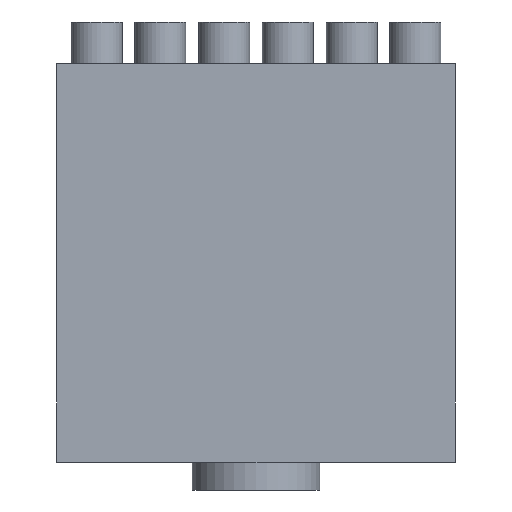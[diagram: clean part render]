
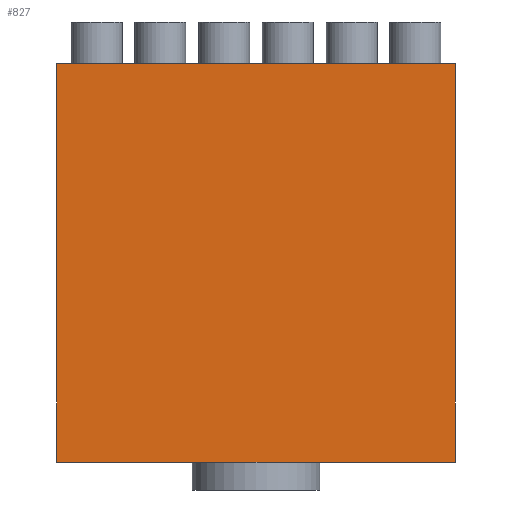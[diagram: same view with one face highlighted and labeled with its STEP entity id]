
A CAD part, front view. The second image highlights one B-rep face of the part: STEP entity #827.
In plain terms, the highlighted planar face has unit normal (0, -1, 0).
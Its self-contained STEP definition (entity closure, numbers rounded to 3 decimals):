
#16=LINE('',#1323,#52);
#39=LINE('',#1394,#75);
#49=LINE('',#1412,#85);
#50=LINE('',#1414,#86);
#52=VECTOR('',#1103,10.);
#75=VECTOR('',#1172,10.);
#85=VECTOR('',#1190,10.);
#86=VECTOR('',#1193,10.);
#114=PLANE('',#942);
#234=FACE_OUTER_BOUND('',#354,.T.);
#354=EDGE_LOOP('',(#738,#739,#740,#741));
#452=VERTEX_POINT('',#1319);
#454=VERTEX_POINT('',#1322);
#478=VERTEX_POINT('',#1391);
#479=VERTEX_POINT('',#1393);
#529=EDGE_CURVE('',#452,#454,#16,.T.);
#560=EDGE_CURVE('',#478,#479,#39,.T.);
#570=EDGE_CURVE('',#478,#454,#49,.T.);
#571=EDGE_CURVE('',#479,#452,#50,.T.);
#738=ORIENTED_EDGE('',*,*,#560,.F.);
#739=ORIENTED_EDGE('',*,*,#570,.T.);
#740=ORIENTED_EDGE('',*,*,#529,.F.);
#741=ORIENTED_EDGE('',*,*,#571,.F.);
#827=ADVANCED_FACE('',(#234),#114,.T.);
#942=AXIS2_PLACEMENT_3D('',#1413,#1191,#1192);
#1103=DIRECTION('',(1.,0.,0.));
#1172=DIRECTION('',(-1.,0.,0.));
#1190=DIRECTION('',(0.,0.,1.));
#1191=DIRECTION('center_axis',(0.,-1.,0.));
#1192=DIRECTION('ref_axis',(1.,0.,0.));
#1193=DIRECTION('',(0.,0.,1.));
#1319=CARTESIAN_POINT('',(-250.,-100.,500.));
#1322=CARTESIAN_POINT('',(250.,-100.,500.));
#1323=CARTESIAN_POINT('',(250.,-100.,500.));
#1391=CARTESIAN_POINT('',(250.,-100.,0.));
#1393=CARTESIAN_POINT('',(-250.,-100.,0.));
#1394=CARTESIAN_POINT('',(250.,-100.,0.));
#1412=CARTESIAN_POINT('',(250.,-100.,0.));
#1413=CARTESIAN_POINT('Origin',(-250.,-100.,0.));
#1414=CARTESIAN_POINT('',(-250.,-100.,0.));
